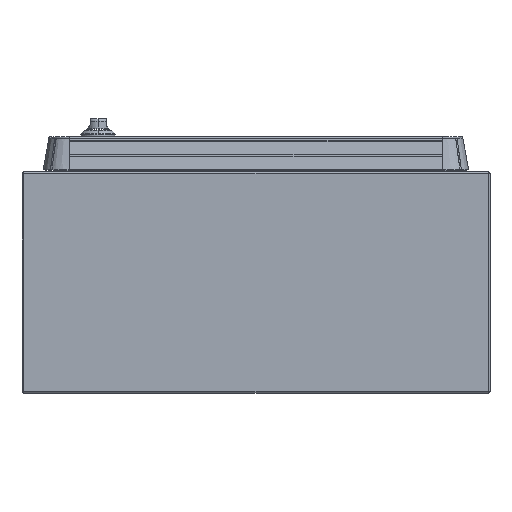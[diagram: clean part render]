
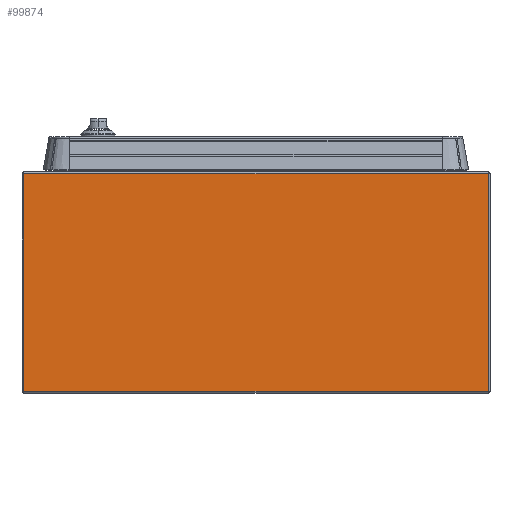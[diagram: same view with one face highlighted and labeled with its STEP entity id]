
A CAD part, front view. The second image highlights one B-rep face of the part: STEP entity #99874.
In plain terms, the highlighted planar face has unit normal (0, -1, 0).
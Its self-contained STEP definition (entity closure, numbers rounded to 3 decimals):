
#1218 = DIRECTION ( 'NONE',  ( 1., 0., 0. ) ) ;
#3184 = EDGE_CURVE ( 'NONE', #17973, #89823, #17607, .T. ) ;
#4106 = VECTOR ( 'NONE', #10795, 1000. ) ;
#5707 = LINE ( 'NONE', #61573, #62643 ) ;
#6622 = CARTESIAN_POINT ( 'NONE',  ( 1488.78, -360.462, 1.6 ) ) ;
#8001 = LINE ( 'NONE', #39839, #49286 ) ;
#8823 = CARTESIAN_POINT ( 'NONE',  ( 1111.78, -360.462, 1.6 ) ) ;
#9357 = EDGE_LOOP ( 'NONE', ( #62748, #18273, #41901, #81354 ) ) ;
#10795 = DIRECTION ( 'NONE',  ( 1., 0., 0. ) ) ;
#14044 = CARTESIAN_POINT ( 'NONE',  ( 1111.78, -360.462, 178.4 ) ) ;
#17607 = LINE ( 'NONE', #66631, #4106 ) ;
#17813 = VERTEX_POINT ( 'NONE', #14044 ) ;
#17973 = VERTEX_POINT ( 'NONE', #8823 ) ;
#18273 = ORIENTED_EDGE ( 'NONE', *, *, #99523, .T. ) ;
#19915 = CARTESIAN_POINT ( 'NONE',  ( 1111.78, -360.462, 0. ) ) ;
#27734 = DIRECTION ( 'NONE',  ( 0., 1., 0. ) ) ;
#29201 = LINE ( 'NONE', #92872, #31000 ) ;
#31000 = VECTOR ( 'NONE', #44869, 1000. ) ;
#39839 = CARTESIAN_POINT ( 'NONE',  ( 1111.78, -360.462, 178.4 ) ) ;
#41901 = ORIENTED_EDGE ( 'NONE', *, *, #3184, .T. ) ;
#44869 = DIRECTION ( 'NONE',  ( 0., 0., -1. ) ) ;
#48730 = PLANE ( 'NONE',  #49458 ) ;
#49286 = VECTOR ( 'NONE', #1218, 1000. ) ;
#49458 = AXIS2_PLACEMENT_3D ( 'NONE', #19915, #27734, #59613 ) ;
#51456 = EDGE_CURVE ( 'NONE', #94853, #89823, #5707, .T. ) ;
#59613 = DIRECTION ( 'NONE',  ( 0., 0., 1. ) ) ;
#61573 = CARTESIAN_POINT ( 'NONE',  ( 1488.78, -360.462, 0. ) ) ;
#62643 = VECTOR ( 'NONE', #92867, 1000. ) ;
#62748 = ORIENTED_EDGE ( 'NONE', *, *, #81642, .F. ) ;
#66631 = CARTESIAN_POINT ( 'NONE',  ( 1111.78, -360.462, 1.6 ) ) ;
#81354 = ORIENTED_EDGE ( 'NONE', *, *, #51456, .F. ) ;
#81642 = EDGE_CURVE ( 'NONE', #17813, #94853, #8001, .T. ) ;
#88407 = FACE_OUTER_BOUND ( 'NONE', #9357, .T. ) ;
#89823 = VERTEX_POINT ( 'NONE', #6622 ) ;
#92867 = DIRECTION ( 'NONE',  ( 0., 0., -1. ) ) ;
#92872 = CARTESIAN_POINT ( 'NONE',  ( 1111.78, -360.462, 0. ) ) ;
#94853 = VERTEX_POINT ( 'NONE', #95342 ) ;
#95342 = CARTESIAN_POINT ( 'NONE',  ( 1488.78, -360.462, 178.4 ) ) ;
#99523 = EDGE_CURVE ( 'NONE', #17813, #17973, #29201, .T. ) ;
#99874 = ADVANCED_FACE ( 'NONE', ( #88407 ), #48730, .F. ) ;
